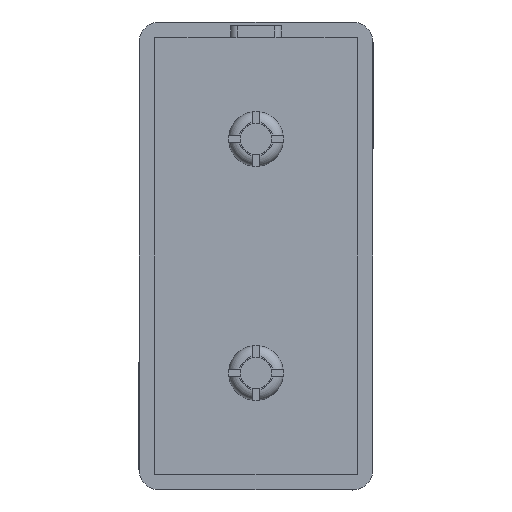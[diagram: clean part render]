
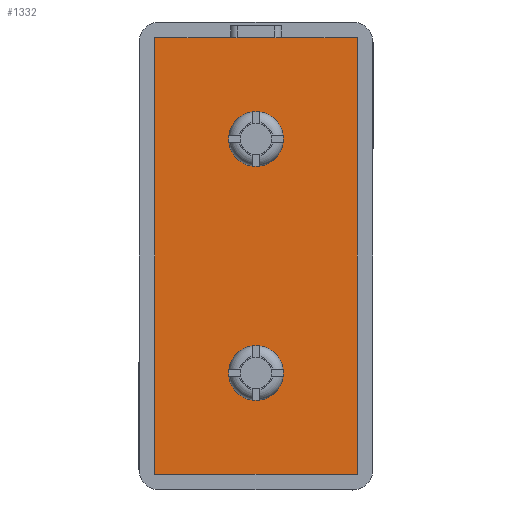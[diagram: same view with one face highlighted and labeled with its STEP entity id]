
A CAD part, front view. The second image highlights one B-rep face of the part: STEP entity #1332.
In plain terms, the highlighted planar face has unit normal (0, -1, 0).
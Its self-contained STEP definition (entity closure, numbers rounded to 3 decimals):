
#40=FACE_BOUND('',#204,.T.);
#41=FACE_BOUND('',#205,.T.);
#60=PLANE('',#1481);
#127=FACE_OUTER_BOUND('',#203,.T.);
#203=EDGE_LOOP('',(#1098,#1099,#1100,#1101));
#204=EDGE_LOOP('',(#1102));
#205=EDGE_LOOP('',(#1103));
#319=LINE('',#2237,#433);
#322=LINE('',#2246,#436);
#324=LINE('',#2250,#438);
#326=LINE('',#2253,#440);
#433=VECTOR('',#1771,1000.);
#436=VECTOR('',#1780,1000.);
#438=VECTOR('',#1784,1000.);
#440=VECTOR('',#1788,1000.);
#481=CIRCLE('',#1395,5.25);
#491=CIRCLE('',#1406,5.25);
#558=VERTEX_POINT('',#1955);
#576=VERTEX_POINT('',#1993);
#658=VERTEX_POINT('',#2234);
#659=VERTEX_POINT('',#2236);
#662=VERTEX_POINT('',#2245);
#663=VERTEX_POINT('',#2249);
#690=EDGE_CURVE('',#558,#558,#481,.T.);
#709=EDGE_CURVE('',#576,#576,#491,.T.);
#813=EDGE_CURVE('',#659,#658,#319,.T.);
#818=EDGE_CURVE('',#662,#659,#322,.T.);
#820=EDGE_CURVE('',#663,#662,#324,.T.);
#822=EDGE_CURVE('',#658,#663,#326,.T.);
#1098=ORIENTED_EDGE('',*,*,#813,.T.);
#1099=ORIENTED_EDGE('',*,*,#822,.T.);
#1100=ORIENTED_EDGE('',*,*,#820,.T.);
#1101=ORIENTED_EDGE('',*,*,#818,.T.);
#1102=ORIENTED_EDGE('',*,*,#690,.T.);
#1103=ORIENTED_EDGE('',*,*,#709,.T.);
#1332=ADVANCED_FACE('',(#127,#40,#41),#60,.T.);
#1395=AXIS2_PLACEMENT_3D('',#1957,#1551,#1552);
#1406=AXIS2_PLACEMENT_3D('',#1995,#1582,#1583);
#1481=AXIS2_PLACEMENT_3D('',#2261,#1800,#1801);
#1551=DIRECTION('center_axis',(0.,1.,0.));
#1552=DIRECTION('ref_axis',(0.,0.,-1.));
#1582=DIRECTION('center_axis',(0.,1.,0.));
#1583=DIRECTION('ref_axis',(0.,0.,-1.));
#1771=DIRECTION('',(-1.,0.,0.));
#1780=DIRECTION('',(0.,0.,1.));
#1784=DIRECTION('',(1.,0.,0.));
#1788=DIRECTION('',(0.,0.,-1.));
#1800=DIRECTION('center_axis',(0.,-1.,0.));
#1801=DIRECTION('ref_axis',(0.,0.,-1.));
#1955=CARTESIAN_POINT('',(0.,1.3,-17.25));
#1957=CARTESIAN_POINT('Origin',(0.,1.3,-22.5));
#1993=CARTESIAN_POINT('',(0.,1.3,27.75));
#1995=CARTESIAN_POINT('Origin',(0.,1.3,22.5));
#2234=CARTESIAN_POINT('',(-19.5,1.3,42.));
#2236=CARTESIAN_POINT('',(19.5,1.3,42.));
#2237=CARTESIAN_POINT('',(19.5,1.3,42.));
#2245=CARTESIAN_POINT('',(19.5,1.3,-42.));
#2246=CARTESIAN_POINT('',(19.5,1.3,-42.));
#2249=CARTESIAN_POINT('',(-19.5,1.3,-42.));
#2250=CARTESIAN_POINT('',(-19.5,1.3,-42.));
#2253=CARTESIAN_POINT('',(-19.5,1.3,42.));
#2261=CARTESIAN_POINT('Origin',(0.,1.3,0.));
